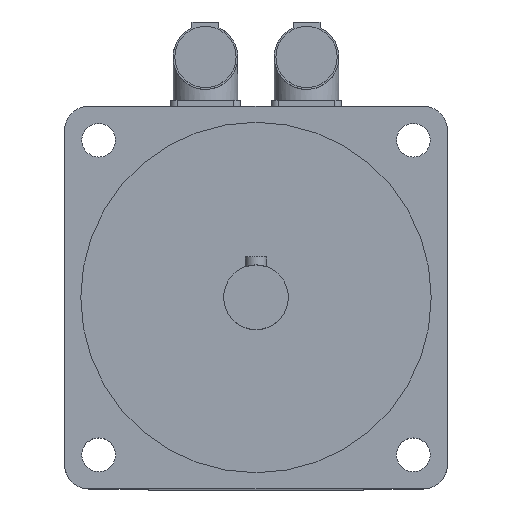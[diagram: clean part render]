
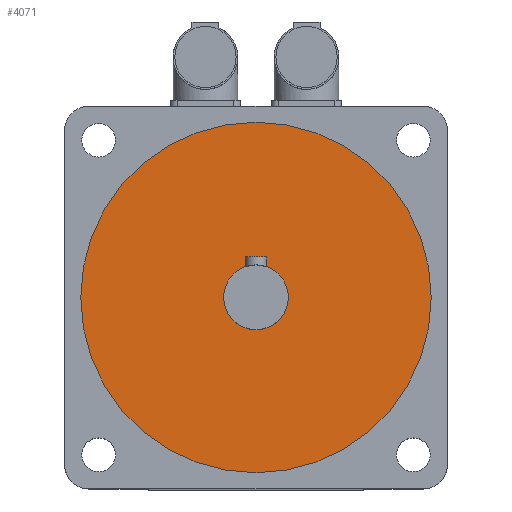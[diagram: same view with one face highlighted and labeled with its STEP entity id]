
A CAD part, top view. The second image highlights one B-rep face of the part: STEP entity #4071.
In plain terms, the highlighted planar face has unit normal (0, 0, 1).
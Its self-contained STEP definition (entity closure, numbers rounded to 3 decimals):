
#28=FACE_BOUND('',#533,.T.);
#79=PLANE('',#4432);
#278=FACE_OUTER_BOUND('',#532,.T.);
#532=EDGE_LOOP('',(#2985));
#533=EDGE_LOOP('',(#2986));
#1517=CIRCLE('',#4427,12.);
#1518=CIRCLE('',#4430,65.);
#1774=VERTEX_POINT('',#6532);
#1775=VERTEX_POINT('',#6536);
#2232=EDGE_CURVE('',#1774,#1774,#1517,.T.);
#2233=EDGE_CURVE('',#1775,#1775,#1518,.T.);
#2985=ORIENTED_EDGE('',*,*,#2233,.T.);
#2986=ORIENTED_EDGE('',*,*,#2232,.T.);
#4071=ADVANCED_FACE('',(#278,#28),#79,.F.);
#4427=AXIS2_PLACEMENT_3D('',#6533,#5205,#5206);
#4430=AXIS2_PLACEMENT_3D('',#6537,#5211,#5212);
#4432=AXIS2_PLACEMENT_3D('',#6540,#5215,#5216);
#5205=DIRECTION('center_axis',(0.,0.,
-1.));
#5206=DIRECTION('ref_axis',(-1.,0.,0.));
#5211=DIRECTION('center_axis',(0.,0.,
1.));
#5212=DIRECTION('ref_axis',(-1.,0.,0.));
#5215=DIRECTION('center_axis',(0.,0.,
-1.));
#5216=DIRECTION('ref_axis',(-1.,0.,0.));
#6532=CARTESIAN_POINT('',(12.,0.,206.5));
#6533=CARTESIAN_POINT('Origin',(0.,0.,
206.5));
#6536=CARTESIAN_POINT('',(65.,0.,206.5));
#6537=CARTESIAN_POINT('Origin',(0.,0.,
206.5));
#6540=CARTESIAN_POINT('Origin',(0.,0.,
206.5));
